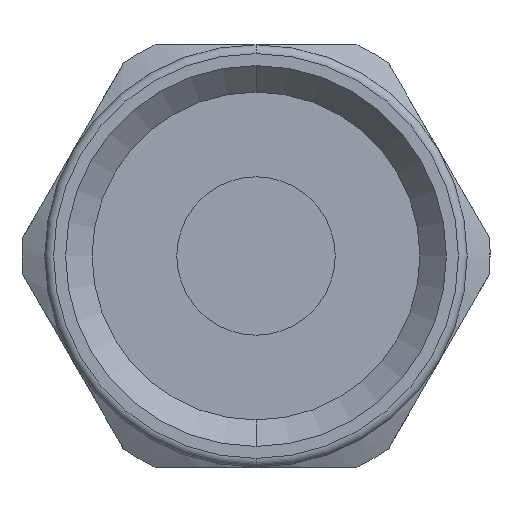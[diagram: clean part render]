
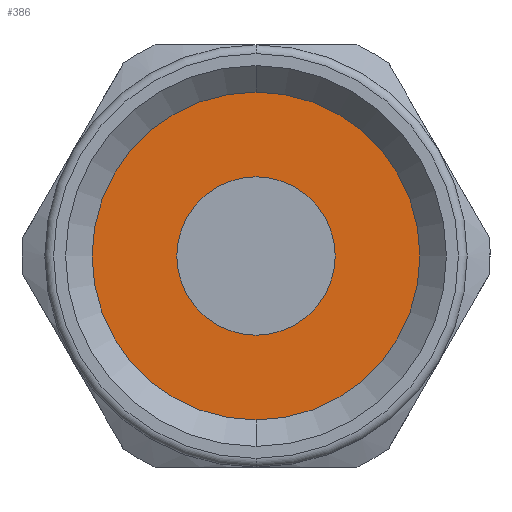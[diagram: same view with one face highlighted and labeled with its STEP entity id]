
A CAD part, front view. The second image highlights one B-rep face of the part: STEP entity #386.
In plain terms, the highlighted planar face has unit normal (0, -1, 0).
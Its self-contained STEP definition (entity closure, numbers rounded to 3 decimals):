
#36 = EDGE_LOOP ( 'NONE', ( #1019, #1020 ) ) ;
#49 = EDGE_LOOP ( 'NONE', ( #1017, #1018 ) ) ;
#386 = ADVANCED_FACE ( 'NONE', ( #3464, #3468 ), #3320, .F. ) ;
#610 = EDGE_CURVE ( 'NONE', #723, #724, #3724, .T. ) ;
#711 = VERTEX_POINT ( 'NONE', #5153 ) ;
#714 = VERTEX_POINT ( 'NONE', #5156 ) ;
#723 = VERTEX_POINT ( 'NONE', #5165 ) ;
#724 = VERTEX_POINT ( 'NONE', #5166 ) ;
#1017 = ORIENTED_EDGE ( 'NONE', *, *, #1444, .T. ) ;
#1018 = ORIENTED_EDGE ( 'NONE', *, *, #1820, .T. ) ;
#1019 = ORIENTED_EDGE ( 'NONE', *, *, #1442, .F. ) ;
#1020 = ORIENTED_EDGE ( 'NONE', *, *, #610, .F. ) ;
#1442 = EDGE_CURVE ( 'NONE', #724, #723, #3833, .T. ) ;
#1444 = EDGE_CURVE ( 'NONE', #714, #711, #3830, .T. ) ;
#1820 = EDGE_CURVE ( 'NONE', #711, #714, #9980, .T. ) ;
#3320 = PLANE ( 'NONE',  #3533 ) ;
#3327 = CARTESIAN_POINT ( 'NONE',  ( 0., 15., 0. ) ) ;
#3328 = DIRECTION ( 'NONE',  ( 0., 1., 0. ) ) ;
#3329 = DIRECTION ( 'NONE',  ( 0., 0., 1. ) ) ;
#3464 = FACE_OUTER_BOUND ( 'NONE', #49, .T. ) ;
#3468 = FACE_BOUND ( 'NONE', #36, .T. ) ;
#3533 = AXIS2_PLACEMENT_3D ( 'NONE', #3327, #3328, #3329 ) ;
#3724 = CIRCLE ( 'NONE', #4296, 4.5 ) ;
#3830 = CIRCLE ( 'NONE', #4342, 9.315 ) ;
#3833 = CIRCLE ( 'NONE', #4340, 4.5 ) ;
#4296 = AXIS2_PLACEMENT_3D ( 'NONE', #4817, #4818, #4819 ) ;
#4340 = AXIS2_PLACEMENT_3D ( 'NONE', #5358, #5359, #5360 ) ;
#4342 = AXIS2_PLACEMENT_3D ( 'NONE', #5364, #5365, #5366 ) ;
#4817 = CARTESIAN_POINT ( 'NONE',  ( 0., 15., 0. ) ) ;
#4818 = DIRECTION ( 'NONE',  ( 0., -1., 0. ) ) ;
#4819 = DIRECTION ( 'NONE',  ( 0., 0., 1. ) ) ;
#5153 = CARTESIAN_POINT ( 'NONE',  ( 0., 15., 9.315 ) ) ;
#5156 = CARTESIAN_POINT ( 'NONE',  ( 0., 15., -9.315 ) ) ;
#5165 = CARTESIAN_POINT ( 'NONE',  ( 0., 15., 4.5 ) ) ;
#5166 = CARTESIAN_POINT ( 'NONE',  ( 0., 15., -4.5 ) ) ;
#5358 = CARTESIAN_POINT ( 'NONE',  ( 0., 15., 0. ) ) ;
#5359 = DIRECTION ( 'NONE',  ( 0., -1., 0. ) ) ;
#5360 = DIRECTION ( 'NONE',  ( 0., 0., 1. ) ) ;
#5364 = CARTESIAN_POINT ( 'NONE',  ( 0., 15., 0. ) ) ;
#5365 = DIRECTION ( 'NONE',  ( 0., -1., 0. ) ) ;
#5366 = DIRECTION ( 'NONE',  ( 0., 0., -1. ) ) ;
#7774 = AXIS2_PLACEMENT_3D ( 'NONE', #10020, #10021, #10022 ) ;
#9980 = CIRCLE ( 'NONE', #7774, 9.315 ) ;
#10020 = CARTESIAN_POINT ( 'NONE',  ( 0., 15., 0. ) ) ;
#10021 = DIRECTION ( 'NONE',  ( 0., -1., 0. ) ) ;
#10022 = DIRECTION ( 'NONE',  ( 0., 0., -1. ) ) ;
